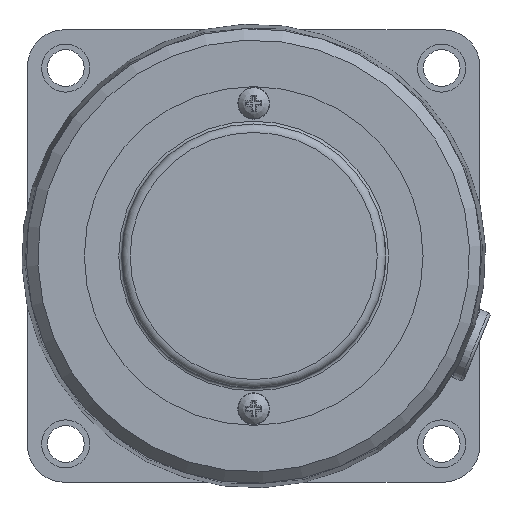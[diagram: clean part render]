
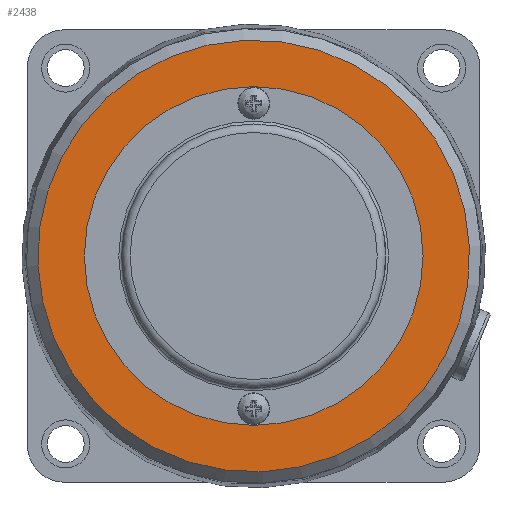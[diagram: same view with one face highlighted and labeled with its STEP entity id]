
A CAD part, left-side view. The second image highlights one B-rep face of the part: STEP entity #2438.
In plain terms, the highlighted planar face has unit normal (-1, 0, 0).
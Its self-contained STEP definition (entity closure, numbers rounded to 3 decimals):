
#106=FACE_BOUND('',#484,.T.);
#152=CIRCLE('',#2640,38.18);
#153=CIRCLE('',#2641,29.95);
#322=FACE_OUTER_BOUND('',#483,.T.);
#483=EDGE_LOOP('',(#1716));
#484=EDGE_LOOP('',(#1717));
#1063=VERTEX_POINT('',#3744);
#1064=VERTEX_POINT('',#3746);
#1312=EDGE_CURVE('',#1063,#1063,#152,.T.);
#1313=EDGE_CURVE('',#1064,#1064,#153,.T.);
#1716=ORIENTED_EDGE('',*,*,#1312,.F.);
#1717=ORIENTED_EDGE('',*,*,#1313,.F.);
#2334=PLANE('',#2639);
#2438=ADVANCED_FACE('',(#322,#106),#2334,.T.);
#2639=AXIS2_PLACEMENT_3D('',#3743,#2990,#2991);
#2640=AXIS2_PLACEMENT_3D('',#3745,#2992,#2993);
#2641=AXIS2_PLACEMENT_3D('',#3747,#2994,#2995);
#2990=DIRECTION('center_axis',(-1.,0.,0.));
#2991=DIRECTION('ref_axis',(0.,0.999,-0.043));
#2992=DIRECTION('center_axis',(1.,0.,0.));
#2993=DIRECTION('ref_axis',(0.,0.999,-0.043));
#2994=DIRECTION('center_axis',(-1.,0.,0.));
#2995=DIRECTION('ref_axis',(0.,0.,-1.));
#3743=CARTESIAN_POINT('Origin',(-39.,0.,0.));
#3744=CARTESIAN_POINT('',(-39.,-38.144,1.659));
#3745=CARTESIAN_POINT('Origin',(-39.,0.,0.));
#3746=CARTESIAN_POINT('',(-39.,0.,-29.95));
#3747=CARTESIAN_POINT('Origin',(-39.,0.,0.));
